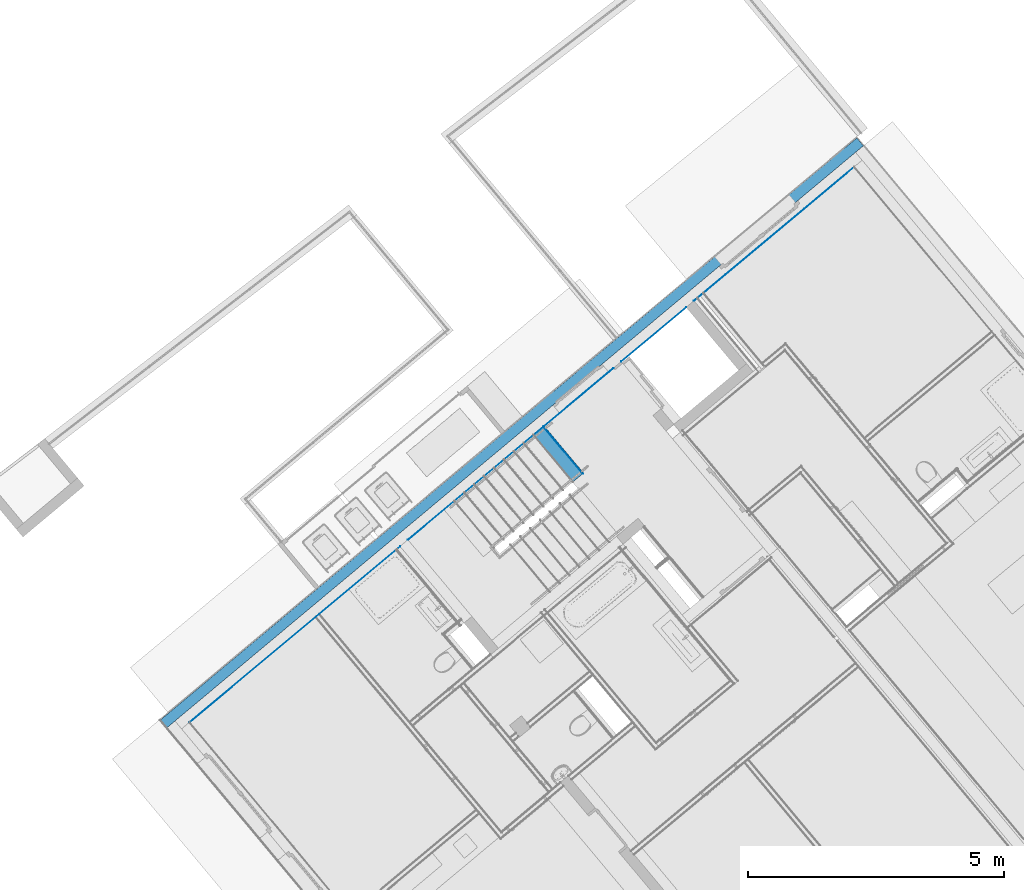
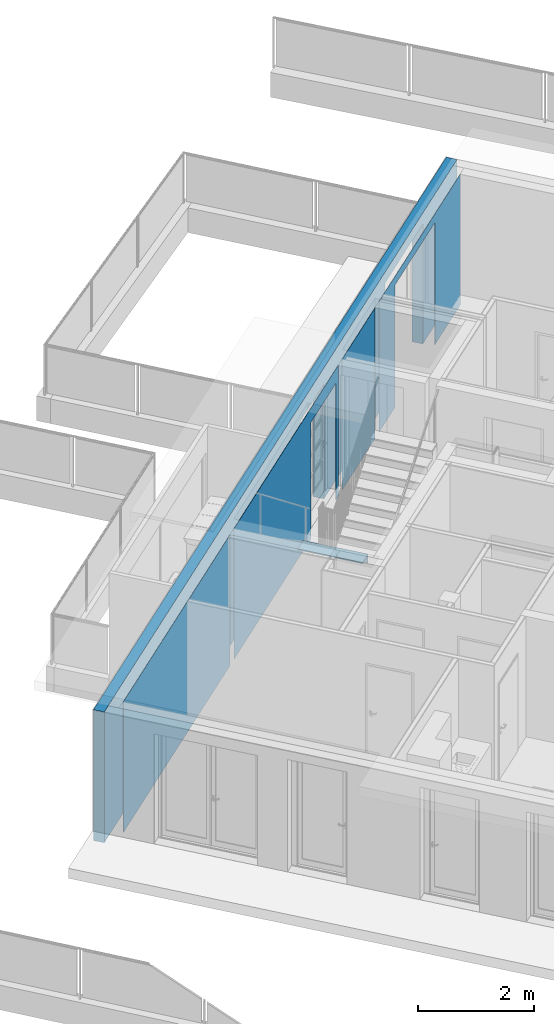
# One storey, part 37 of 67: 4 building element parts, 2 openings, 2 elements without a shape of their own.
"""IFC4 building model written with IfcOpenShell, lengths in metres."""

from ifc_helpers import new_model, entity, si_unit, converted_unit, derived_unit, direction, frame, origin_with_axes, place, context, subcontext, project, spatial, polygons, material, type_object, element, aggregate, save


model = new_model("IFC4")

# Units and contexts
model_context = context("Model", 3, precision=1e-05, world=origin_with_axes(), true_north=direction((0.0, 1.0)))
body_context = subcontext(model_context, "Body", "Model", "MODEL_VIEW")
ifc_project = project(units=[si_unit("LENGTHUNIT", "METRE"), si_unit("AREAUNIT", "SQUARE_METRE"), si_unit("VOLUMEUNIT", "CUBIC_METRE"), converted_unit("PLANEANGLEUNIT", "DEGREE", entity("IfcPlaneAngleMeasure", 0.0174532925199), si_unit("PLANEANGLEUNIT", "RADIAN"), dimensions=[0, 0, 0, 0, 0, 0, 0]), converted_unit("TIMEUNIT", "Year", entity("IfcTimeMeasure", 31556926.0), si_unit("TIMEUNIT", "SECOND"), dimensions=[0, 0, 1, 0, 0, 0, 0]), si_unit("MASSUNIT", "GRAM", prefix="KILO"), si_unit("THERMODYNAMICTEMPERATUREUNIT", "DEGREE_CELSIUS"), si_unit("LUMINOUSINTENSITYUNIT", "LUMEN"), si_unit("ENERGYUNIT", "JOULE", prefix="MEGA"), derived_unit("THERMALCONDUCTANCEUNIT", [(si_unit("POWERUNIT", "WATT"), 1), (si_unit("LENGTHUNIT", "METRE"), -1), (si_unit("THERMODYNAMICTEMPERATUREUNIT", "KELVIN"), -1)]), derived_unit("SPECIFICHEATCAPACITYUNIT", [(si_unit("ENERGYUNIT", "JOULE"), 1), (si_unit("MASSUNIT", "GRAM", prefix="KILO"), -1), (si_unit("THERMODYNAMICTEMPERATUREUNIT", "KELVIN"), -1)]), derived_unit("MASSDENSITYUNIT", [(si_unit("MASSUNIT", "GRAM", prefix="KILO"), 1), (si_unit("VOLUMEUNIT", "CUBIC_METRE"), -1)])], contexts=[model_context])

# Site, building, storey
site_placement = place(None, frame((-0.00153261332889, -0.00661245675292, 0.0), z_axis=(0.0, 0.0, 1.0), x_axis=(1.0, 0.0, 0.0)))
site = spatial("IfcSite", under=ifc_project, at=site_placement, Name="Site", CompositionType="ELEMENT")
building_placement = place(site_placement, origin_with_axes())
building = spatial("IfcBuilding", under=site, at=building_placement, Name="Building", CompositionType="ELEMENT")
storey_placement = place(building_placement, frame((0.0, 0.0, -0.22), z_axis=(0.0, 0.0, 1.0), x_axis=(1.0, 0.0, 0.0)))
storey = spatial("IfcBuildingStorey", under=building, at=storey_placement, Name="EG", CompositionType="ELEMENT", Elevation=-0.22)

# Stair, building element parts
stair_type = type_object("IfcStairType", Name="Treppentyp", PredefinedType="NOTDEFINED")
stair_placement = place(storey_placement, frame((-0.972083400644, 24.9200947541, 0.05), z_axis=(0.0, 0.0, 1.0), x_axis=(1.0, 0.0, 0.0)))
stair = element("IfcStair", 1, at=stair_placement, inside=storey, type_object=stair_type, Name="Treppe - 001", PredefinedType="NOTDEFINED")
ifc_material_1 = material(Name="BEKLEIDUNG")
building_element_part_1_placement = place(stair_placement, origin_with_axes())
building_element_part_1 = element("IfcBuildingElementPart", 2, at=building_element_part_1_placement, material=ifc_material_1, Name="BEKLEIDUNG", PredefinedType="NOTDEFINED", context=body_context, shape_type="Tessellation", body=[
    polygons([(-0.207379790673, -0.173268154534, 0.152058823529), (-0.215053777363, -0.179679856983, 0.152058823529), (0.55435051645, -1.10055825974, 0.152058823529), (0.56202450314, -1.09414655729, 0.152058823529), (-0.207379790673, -0.173268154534, 0.0), (-0.215053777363, -0.179679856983, 0.0), (0.55435051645, -1.10055825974, 0.0), (0.56202450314, -1.09414655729, 0.0)], [[[1, 2, 3, 4]], [[1, 5, 6, 2]], [[2, 6, 7, 3]], [[4, 3, 7, 8]], [[5, 1, 4, 8]], [[6, 5, 8, 7]]], closed=True),
])
building_element_part_2_placement = place(stair_placement, origin_with_axes())
building_element_part_2 = element("IfcBuildingElementPart", 3, at=building_element_part_2_placement, material=ifc_material_1, Name="BEKLEIDUNG", PredefinedType="NOTDEFINED", context=body_context, shape_type="Tessellation", body=[
    polygons([(0.573535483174, -1.08452900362, 0.152058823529), (-0.195868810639, -0.163650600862, 0.152058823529), (-0.195868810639, -0.163650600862, 0.177058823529), (0.573535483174, -1.08452900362, 0.177058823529), (0.361203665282, -1.26193463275, 0.152058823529), (-0.408200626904, -0.341056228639, 0.152058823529), (-0.408200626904, -0.341056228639, 0.177058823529), (0.361203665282, -1.26193463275, 0.177058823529)], [[[1, 2, 3, 4]], [[1, 5, 6, 2]], [[2, 6, 7, 3]], [[4, 3, 7, 8]], [[5, 1, 4, 8]], [[6, 5, 8, 7]]], closed=True),
])
aggregate(stair, [building_element_part_1, building_element_part_2])

# Wall, openings, building element parts
wall_type = type_object("IfcWallType", Name="AW EG 420", PredefinedType="NOTDEFINED")
wall_placement = place(storey_placement, frame((-8.68307438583, 19.0183290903, 0.0), z_axis=(0.0, 0.0, 1.0), x_axis=(0.767365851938, 0.641209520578, 0.0)))
wall = element("IfcWall", 4, at=wall_placement, inside=storey, type_object=wall_type, Name="Wand-002", PredefinedType="NOTDEFINED")
opening_1_placement = place(wall_placement, frame((10.4605315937, 0.0, 0.0), z_axis=(0.0, 0.0, 1.0), x_axis=(1.0, 0.0, 0.0)))
element("IfcOpeningElement", 5, at=opening_1_placement, cuts=wall, Name="Tür-001", context=body_context, identifier="Reference", shape_type="Tessellation", body=[
    polygons([(-0.585, -0.215, 2.42), (0.585, -0.215, 2.42), (0.585, 8.73588612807, 2.42), (-0.585, 8.73588612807, 2.42), (0.585, -0.215, 0.0), (-0.585, -0.215, 0.0), (-0.625, -0.215, 0.0), (-0.625, -0.215, 2.46), (0.625, -0.215, 2.46), (0.625, -0.215, 0.0), (0.585, 8.73588612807, 0.0), (-0.585, 8.73588612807, 0.0), (0.625, -9.15588612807, 0.0), (-0.625, -9.15588612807, 0.0), (-0.625, -9.15588612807, 2.46), (0.625, -9.15588612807, 2.46)], [[[1, 2, 3, 4]], [[5, 2, 1, 6, 7, 8, 9, 10]], [[2, 5, 11, 3]], [[3, 11, 12, 4]], [[6, 1, 4, 12]], [[6, 12, 11, 5, 10, 13, 14, 7]], [[8, 7, 14, 15]], [[9, 8, 15, 16]], [[10, 9, 16, 13]], [[15, 14, 13, 16]]], closed=True),
])
opening_2_placement = place(wall_placement, frame((15.0631654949, 0.0, 0.22), z_axis=(0.0, 0.0, 1.0), x_axis=(1.0, 0.0, 0.0)))
element("IfcOpeningElement", 6, at=opening_2_placement, cuts=wall, Name="Tür-002", context=body_context, identifier="Reference", shape_type="Tessellation", body=[
    polygons([(-0.95, -0.215, 2.31), (0.95, -0.215, 2.31), (0.95, 8.73588612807, 2.31), (-0.95, 8.73588612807, 2.31), (0.95, -0.215, -0.22), (-0.95, -0.215, -0.22), (-1.0, -0.215, -0.22), (-1.0, -0.215, 2.36), (1.0, -0.215, 2.36), (1.0, -0.215, -0.22), (0.95, 8.73588612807, -0.22), (-0.95, 8.73588612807, -0.22), (1.0, -9.15588612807, -0.22), (-1.0, -9.15588612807, -0.22), (-1.0, -9.15588612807, 2.36), (1.0, -9.15588612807, 2.36)], [[[1, 2, 3, 4]], [[5, 2, 1, 6, 7, 8, 9, 10]], [[2, 5, 11, 3]], [[3, 11, 12, 4]], [[6, 1, 4, 12]], [[6, 12, 11, 5, 10, 13, 14, 7]], [[8, 7, 14, 15]], [[9, 8, 15, 16]], [[10, 9, 16, 13]], [[15, 14, 13, 16]]], closed=True),
])
ifc_material_2 = material(Name="EPS 1")
building_element_part_3_placement = place(wall_placement, origin_with_axes())
building_element_part_3 = element("IfcBuildingElementPart", 7, at=building_element_part_3_placement, material=ifc_material_2, Name="EPS 1", PredefinedType="NOTDEFINED", context=body_context, shape_type="Tessellation", body=[
    polygons([(14.1131654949, -0.215, 0.0), (14.1131654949, -0.215, 2.53), (16.0131654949, -0.215, 2.53), (16.0131654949, -0.215, 0.0), (17.7373076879, -0.215, 0.0), (17.7373076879, -0.215, 2.76), (0.0149999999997, -0.215, 2.76), (0.0149999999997, -0.215, 0.0), (9.87553159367, -0.215, 0.0), (9.87553159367, -0.215, 2.42), (11.0455315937, -0.215, 2.42), (11.0455315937, -0.215, 0.0), (14.1131654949, -0.015, 0.0), (14.1131654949, -0.015, 2.53), (16.0131654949, -0.015, 2.53), (16.0131654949, -0.015, 0.0), (17.7373076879, -0.015, 0.0), (17.7373076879, -0.015, 2.76), (0.015, -0.015, 2.76), (0.015, -0.015, 0.0), (9.87553159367, -0.015, 0.0), (9.87553159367, -0.015, 2.42), (11.0455315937, -0.015, 2.42), (11.0455315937, -0.015, 0.0)], [[[1, 2, 3, 4, 5, 6, 7, 8, 9, 10, 11, 12]], [[2, 1, 13, 14]], [[3, 2, 14, 15]], [[4, 3, 15, 16]], [[4, 16, 17, 5]], [[17, 18, 6, 5]], [[7, 6, 18, 19]], [[20, 8, 7, 19]], [[9, 8, 20, 21]], [[9, 21, 22, 10]], [[10, 22, 23, 11]], [[11, 23, 24, 12]], [[13, 1, 12, 24]], [[14, 13, 24, 23, 22, 21, 20, 19, 18, 17, 16, 15]]], closed=True),
])
ifc_material_3 = material(Name="Zementputz")
building_element_part_4_placement = place(wall_placement, origin_with_axes())
building_element_part_4 = element("IfcBuildingElementPart", 8, at=building_element_part_4_placement, material=ifc_material_3, Name="Zementputz", PredefinedType="NOTDEFINED", context=body_context, shape_type="Tessellation", body=[
    polygons([(5.77520574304, -0.415, 2.76), (0.414999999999, -0.415, 2.76), (0.414999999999, -0.42, 2.76), (5.77520574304, -0.42, 2.76), (5.77520574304, -0.415, 0.0), (0.414999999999, -0.415, 0.0), (0.414999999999, -0.42, 0.0), (5.77520574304, -0.42, 0.0)], [[[1, 2, 3, 4]], [[5, 6, 2, 1]], [[3, 2, 6, 7]], [[4, 3, 7, 8]], [[4, 8, 5, 1]], [[8, 7, 6, 5]]], closed=True),
    polygons([(9.83553159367, -0.42, 0.0), (9.83553159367, -0.42, 2.46), (11.0855315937, -0.42, 2.46), (11.0855315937, -0.42, 0.0), (11.2074309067, -0.42, 0.0), (11.2074309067, -0.42, 2.76), (5.97520574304, -0.42, 2.76), (5.97520574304, -0.42, 0.0), (9.83553159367, -0.415, 0.0), (9.83553159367, -0.415, 2.46), (11.0855315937, -0.415, 2.46), (11.0855315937, -0.415, 0.0), (11.2074332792, -0.415, 0.0), (11.2074332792, -0.415, 2.76), (5.97520574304, -0.415, 2.76), (5.97520574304, -0.415, 0.0)], [[[1, 2, 3, 4, 5, 6, 7, 8]], [[2, 1, 9, 10]], [[3, 2, 10, 11]], [[4, 3, 11, 12]], [[4, 12, 13, 5]], [[5, 13, 14, 6]], [[15, 7, 6, 14]], [[15, 16, 8, 7]], [[9, 1, 8, 16]], [[10, 9, 16, 15, 14, 13, 12, 11]]], closed=True),
    polygons([(13.0571733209, -0.415, 2.76), (11.4074333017, -0.415, 2.76), (11.4074309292, -0.42, 2.76), (13.0571733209, -0.42, 2.76), (13.0571733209, -0.415, 0.0), (11.4074333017, -0.415, 0.0), (11.4074309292, -0.42, 0.0), (13.0571733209, -0.42, 0.0)], [[[1, 2, 3, 4]], [[5, 6, 2, 1]], [[3, 2, 6, 7]], [[4, 3, 7, 8]], [[4, 8, 5, 1]], [[8, 7, 6, 5]]], closed=True),
    polygons([(14.0631654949, -0.42, 0.0), (14.0631654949, -0.42, 2.58), (16.0631654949, -0.42, 2.58), (16.0631654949, -0.42, 0.0), (17.3373076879, -0.42, 0.0), (17.3373076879, -0.42, 2.76), (13.2571733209, -0.42, 2.76), (13.2571733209, -0.42, 0.0), (14.0631654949, -0.415, 0.0), (14.0631654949, -0.415, 2.58), (16.0631654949, -0.415, 2.58), (16.0631654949, -0.415, 0.0), (17.3373076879, -0.415, 0.0), (17.3373076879, -0.415, 2.76), (13.2571733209, -0.415, 2.76), (13.2571733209, -0.415, 0.0)], [[[1, 2, 3, 4, 5, 6, 7, 8]], [[2, 1, 9, 10]], [[3, 2, 10, 11]], [[4, 3, 11, 12]], [[4, 12, 13, 5]], [[5, 13, 14, 6]], [[15, 7, 6, 14]], [[15, 16, 8, 7]], [[9, 1, 8, 16]], [[10, 9, 16, 15, 14, 13, 12, 11]]], closed=True),
])
aggregate(wall, [building_element_part_3, building_element_part_4])

save(model, "model.ifc")
